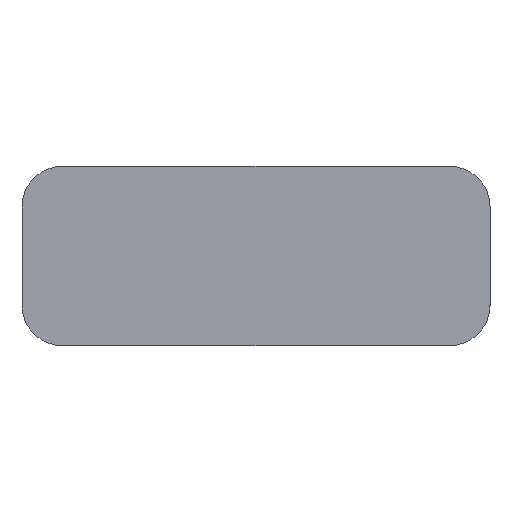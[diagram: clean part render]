
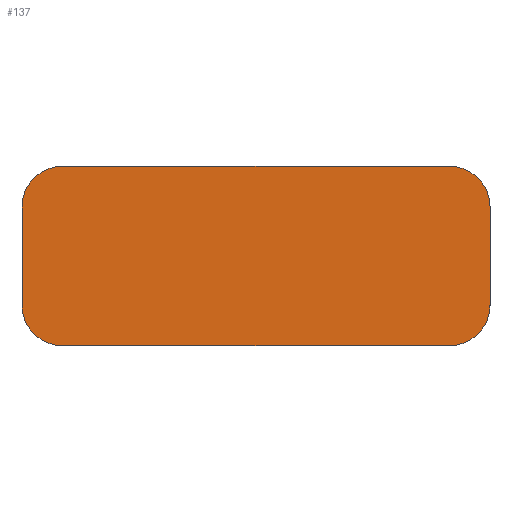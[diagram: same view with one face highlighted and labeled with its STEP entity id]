
A CAD part, top view. The second image highlights one B-rep face of the part: STEP entity #137.
In plain terms, the highlighted planar face has unit normal (0, 0, 1).
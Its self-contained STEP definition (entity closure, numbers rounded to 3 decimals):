
#21 = EDGE_CURVE('',#22,#24,#26,.T.);
#22 = VERTEX_POINT('',#23);
#23 = CARTESIAN_POINT('',(-17.2,-63.8,-9.5));
#24 = VERTEX_POINT('',#25);
#25 = CARTESIAN_POINT('',(-17.2,-56.6,-9.5));
#26 = SURFACE_CURVE('',#27,(#31,#43),.PCURVE_S1.);
#27 = LINE('',#28,#29);
#28 = CARTESIAN_POINT('',(-17.2,-66.8,-9.5));
#29 = VECTOR('',#30,1.);
#30 = DIRECTION('',(0.,1.,0.));
#31 = PCURVE('',#32,#37);
#32 = PLANE('',#33);
#33 = AXIS2_PLACEMENT_3D('',#34,#35,#36);
#34 = CARTESIAN_POINT('',(-17.2,-66.8,-11.5));
#35 = DIRECTION('',(1.,0.,0.));
#36 = DIRECTION('',(0.,0.,1.));
#37 = DEFINITIONAL_REPRESENTATION('',(#38),#42);
#38 = LINE('',#39,#40);
#39 = CARTESIAN_POINT('',(2.,0.));
#40 = VECTOR('',#41,1.);
#41 = DIRECTION('',(0.,-1.));
#42 = ( GEOMETRIC_REPRESENTATION_CONTEXT(2) 
PARAMETRIC_REPRESENTATION_CONTEXT() REPRESENTATION_CONTEXT('2D SPACE',''
  ) );
#43 = PCURVE('',#44,#49);
#44 = PLANE('',#45);
#45 = AXIS2_PLACEMENT_3D('',#46,#47,#48);
#46 = CARTESIAN_POINT('',(-17.2,-66.8,-9.5));
#47 = DIRECTION('',(0.,0.,1.));
#48 = DIRECTION('',(1.,0.,-0.));
#49 = DEFINITIONAL_REPRESENTATION('',(#50),#54);
#50 = LINE('',#51,#52);
#51 = CARTESIAN_POINT('',(0.,0.));
#52 = VECTOR('',#53,1.);
#53 = DIRECTION('',(0.,1.));
#54 = ( GEOMETRIC_REPRESENTATION_CONTEXT(2) 
PARAMETRIC_REPRESENTATION_CONTEXT() REPRESENTATION_CONTEXT('2D SPACE',''
  ) );
#72 = CYLINDRICAL_SURFACE('',#73,3.);
#73 = AXIS2_PLACEMENT_3D('',#74,#75,#76);
#74 = CARTESIAN_POINT('',(-14.2,-63.8,-11.5));
#75 = DIRECTION('',(0.,0.,1.));
#76 = DIRECTION('',(-1.,-0.,0.));
#126 = CYLINDRICAL_SURFACE('',#127,3.);
#127 = AXIS2_PLACEMENT_3D('',#128,#129,#130);
#128 = CARTESIAN_POINT('',(-14.2,-56.6,-11.5));
#129 = DIRECTION('',(0.,0.,1.));
#130 = DIRECTION('',(-1.,-0.,0.));
#137 = ADVANCED_FACE('',(#138),#44,.T.);
#138 = FACE_BOUND('',#139,.T.);
#139 = EDGE_LOOP('',(#140,#141,#165,#193,#226,#254,#283,#311));
#140 = ORIENTED_EDGE('',*,*,#21,.F.);
#141 = ORIENTED_EDGE('',*,*,#142,.T.);
#142 = EDGE_CURVE('',#22,#143,#145,.T.);
#143 = VERTEX_POINT('',#144);
#144 = CARTESIAN_POINT('',(-14.2,-66.8,-9.5));
#145 = SURFACE_CURVE('',#146,(#151,#158),.PCURVE_S1.);
#146 = CIRCLE('',#147,3.);
#147 = AXIS2_PLACEMENT_3D('',#148,#149,#150);
#148 = CARTESIAN_POINT('',(-14.2,-63.8,-9.5));
#149 = DIRECTION('',(0.,0.,1.));
#150 = DIRECTION('',(0.,-1.,0.));
#151 = PCURVE('',#44,#152);
#152 = DEFINITIONAL_REPRESENTATION('',(#153),#157);
#153 = CIRCLE('',#154,3.);
#154 = AXIS2_PLACEMENT_2D('',#155,#156);
#155 = CARTESIAN_POINT('',(3.,3.));
#156 = DIRECTION('',(0.,-1.));
#157 = ( GEOMETRIC_REPRESENTATION_CONTEXT(2) 
PARAMETRIC_REPRESENTATION_CONTEXT() REPRESENTATION_CONTEXT('2D SPACE',''
  ) );
#158 = PCURVE('',#72,#159);
#159 = DEFINITIONAL_REPRESENTATION('',(#160),#164);
#160 = LINE('',#161,#162);
#161 = CARTESIAN_POINT('',(-4.712,2.));
#162 = VECTOR('',#163,1.);
#163 = DIRECTION('',(1.,0.));
#164 = ( GEOMETRIC_REPRESENTATION_CONTEXT(2) 
PARAMETRIC_REPRESENTATION_CONTEXT() REPRESENTATION_CONTEXT('2D SPACE',''
  ) );
#165 = ORIENTED_EDGE('',*,*,#166,.T.);
#166 = EDGE_CURVE('',#143,#167,#169,.T.);
#167 = VERTEX_POINT('',#168);
#168 = CARTESIAN_POINT('',(14.2,-66.8,-9.5));
#169 = SURFACE_CURVE('',#170,(#174,#181),.PCURVE_S1.);
#170 = LINE('',#171,#172);
#171 = CARTESIAN_POINT('',(-17.2,-66.8,-9.5));
#172 = VECTOR('',#173,1.);
#173 = DIRECTION('',(1.,0.,0.));
#174 = PCURVE('',#44,#175);
#175 = DEFINITIONAL_REPRESENTATION('',(#176),#180);
#176 = LINE('',#177,#178);
#177 = CARTESIAN_POINT('',(0.,0.));
#178 = VECTOR('',#179,1.);
#179 = DIRECTION('',(1.,0.));
#180 = ( GEOMETRIC_REPRESENTATION_CONTEXT(2) 
PARAMETRIC_REPRESENTATION_CONTEXT() REPRESENTATION_CONTEXT('2D SPACE',''
  ) );
#181 = PCURVE('',#182,#187);
#182 = PLANE('',#183);
#183 = AXIS2_PLACEMENT_3D('',#184,#185,#186);
#184 = CARTESIAN_POINT('',(-17.2,-66.8,-11.5));
#185 = DIRECTION('',(0.,1.,0.));
#186 = DIRECTION('',(0.,-0.,1.));
#187 = DEFINITIONAL_REPRESENTATION('',(#188),#192);
#188 = LINE('',#189,#190);
#189 = CARTESIAN_POINT('',(2.,0.));
#190 = VECTOR('',#191,1.);
#191 = DIRECTION('',(0.,1.));
#192 = ( GEOMETRIC_REPRESENTATION_CONTEXT(2) 
PARAMETRIC_REPRESENTATION_CONTEXT() REPRESENTATION_CONTEXT('2D SPACE',''
  ) );
#193 = ORIENTED_EDGE('',*,*,#194,.F.);
#194 = EDGE_CURVE('',#195,#167,#197,.T.);
#195 = VERTEX_POINT('',#196);
#196 = CARTESIAN_POINT('',(17.2,-63.8,-9.5));
#197 = SURFACE_CURVE('',#198,(#203,#214),.PCURVE_S1.);
#198 = CIRCLE('',#199,3.);
#199 = AXIS2_PLACEMENT_3D('',#200,#201,#202);
#200 = CARTESIAN_POINT('',(14.2,-63.8,-9.5));
#201 = DIRECTION('',(-0.,-0.,-1.));
#202 = DIRECTION('',(0.,-1.,0.));
#203 = PCURVE('',#44,#204);
#204 = DEFINITIONAL_REPRESENTATION('',(#205),#213);
#205 = ( BOUNDED_CURVE() B_SPLINE_CURVE(2,(#206,#207,#208,#209,#210,#211
,#212),.UNSPECIFIED.,.T.,.F.) B_SPLINE_CURVE_WITH_KNOTS((1,2,2,2,2,1),(
    -2.094,0.,2.094,4.189,6.283,
8.378),.UNSPECIFIED.) CURVE() GEOMETRIC_REPRESENTATION_ITEM() 
RATIONAL_B_SPLINE_CURVE((1.,0.5,1.,0.5,1.,0.5,1.)) REPRESENTATION_ITEM(
  '') );
#206 = CARTESIAN_POINT('',(31.4,0.));
#207 = CARTESIAN_POINT('',(26.204,0.));
#208 = CARTESIAN_POINT('',(28.802,4.5));
#209 = CARTESIAN_POINT('',(31.4,9.));
#210 = CARTESIAN_POINT('',(33.998,4.5));
#211 = CARTESIAN_POINT('',(36.596,0.));
#212 = CARTESIAN_POINT('',(31.4,0.));
#213 = ( GEOMETRIC_REPRESENTATION_CONTEXT(2) 
PARAMETRIC_REPRESENTATION_CONTEXT() REPRESENTATION_CONTEXT('2D SPACE',''
  ) );
#214 = PCURVE('',#215,#220);
#215 = CYLINDRICAL_SURFACE('',#216,3.);
#216 = AXIS2_PLACEMENT_3D('',#217,#218,#219);
#217 = CARTESIAN_POINT('',(14.2,-63.8,-11.5));
#218 = DIRECTION('',(0.,0.,1.));
#219 = DIRECTION('',(1.,0.,-0.));
#220 = DEFINITIONAL_REPRESENTATION('',(#221),#225);
#221 = LINE('',#222,#223);
#222 = CARTESIAN_POINT('',(10.996,2.));
#223 = VECTOR('',#224,1.);
#224 = DIRECTION('',(-1.,0.));
#225 = ( GEOMETRIC_REPRESENTATION_CONTEXT(2) 
PARAMETRIC_REPRESENTATION_CONTEXT() REPRESENTATION_CONTEXT('2D SPACE',''
  ) );
#226 = ORIENTED_EDGE('',*,*,#227,.T.);
#227 = EDGE_CURVE('',#195,#228,#230,.T.);
#228 = VERTEX_POINT('',#229);
#229 = CARTESIAN_POINT('',(17.2,-56.6,-9.5));
#230 = SURFACE_CURVE('',#231,(#235,#242),.PCURVE_S1.);
#231 = LINE('',#232,#233);
#232 = CARTESIAN_POINT('',(17.2,-66.8,-9.5));
#233 = VECTOR('',#234,1.);
#234 = DIRECTION('',(0.,1.,0.));
#235 = PCURVE('',#44,#236);
#236 = DEFINITIONAL_REPRESENTATION('',(#237),#241);
#237 = LINE('',#238,#239);
#238 = CARTESIAN_POINT('',(34.4,0.));
#239 = VECTOR('',#240,1.);
#240 = DIRECTION('',(0.,1.));
#241 = ( GEOMETRIC_REPRESENTATION_CONTEXT(2) 
PARAMETRIC_REPRESENTATION_CONTEXT() REPRESENTATION_CONTEXT('2D SPACE',''
  ) );
#242 = PCURVE('',#243,#248);
#243 = PLANE('',#244);
#244 = AXIS2_PLACEMENT_3D('',#245,#246,#247);
#245 = CARTESIAN_POINT('',(17.2,-66.8,-11.5));
#246 = DIRECTION('',(1.,0.,0.));
#247 = DIRECTION('',(0.,0.,1.));
#248 = DEFINITIONAL_REPRESENTATION('',(#249),#253);
#249 = LINE('',#250,#251);
#250 = CARTESIAN_POINT('',(2.,0.));
#251 = VECTOR('',#252,1.);
#252 = DIRECTION('',(0.,-1.));
#253 = ( GEOMETRIC_REPRESENTATION_CONTEXT(2) 
PARAMETRIC_REPRESENTATION_CONTEXT() REPRESENTATION_CONTEXT('2D SPACE',''
  ) );
#254 = ORIENTED_EDGE('',*,*,#255,.T.);
#255 = EDGE_CURVE('',#228,#256,#258,.T.);
#256 = VERTEX_POINT('',#257);
#257 = CARTESIAN_POINT('',(14.2,-53.6,-9.5));
#258 = SURFACE_CURVE('',#259,(#264,#271),.PCURVE_S1.);
#259 = CIRCLE('',#260,3.);
#260 = AXIS2_PLACEMENT_3D('',#261,#262,#263);
#261 = CARTESIAN_POINT('',(14.2,-56.6,-9.5));
#262 = DIRECTION('',(0.,0.,1.));
#263 = DIRECTION('',(0.,-1.,0.));
#264 = PCURVE('',#44,#265);
#265 = DEFINITIONAL_REPRESENTATION('',(#266),#270);
#266 = CIRCLE('',#267,3.);
#267 = AXIS2_PLACEMENT_2D('',#268,#269);
#268 = CARTESIAN_POINT('',(31.4,10.2));
#269 = DIRECTION('',(0.,-1.));
#270 = ( GEOMETRIC_REPRESENTATION_CONTEXT(2) 
PARAMETRIC_REPRESENTATION_CONTEXT() REPRESENTATION_CONTEXT('2D SPACE',''
  ) );
#271 = PCURVE('',#272,#277);
#272 = CYLINDRICAL_SURFACE('',#273,3.);
#273 = AXIS2_PLACEMENT_3D('',#274,#275,#276);
#274 = CARTESIAN_POINT('',(14.2,-56.6,-11.5));
#275 = DIRECTION('',(0.,0.,1.));
#276 = DIRECTION('',(1.,0.,-0.));
#277 = DEFINITIONAL_REPRESENTATION('',(#278),#282);
#278 = LINE('',#279,#280);
#279 = CARTESIAN_POINT('',(-1.571,2.));
#280 = VECTOR('',#281,1.);
#281 = DIRECTION('',(1.,0.));
#282 = ( GEOMETRIC_REPRESENTATION_CONTEXT(2) 
PARAMETRIC_REPRESENTATION_CONTEXT() REPRESENTATION_CONTEXT('2D SPACE',''
  ) );
#283 = ORIENTED_EDGE('',*,*,#284,.F.);
#284 = EDGE_CURVE('',#285,#256,#287,.T.);
#285 = VERTEX_POINT('',#286);
#286 = CARTESIAN_POINT('',(-14.2,-53.6,-9.5));
#287 = SURFACE_CURVE('',#288,(#292,#299),.PCURVE_S1.);
#288 = LINE('',#289,#290);
#289 = CARTESIAN_POINT('',(-17.2,-53.6,-9.5));
#290 = VECTOR('',#291,1.);
#291 = DIRECTION('',(1.,0.,0.));
#292 = PCURVE('',#44,#293);
#293 = DEFINITIONAL_REPRESENTATION('',(#294),#298);
#294 = LINE('',#295,#296);
#295 = CARTESIAN_POINT('',(0.,13.2));
#296 = VECTOR('',#297,1.);
#297 = DIRECTION('',(1.,0.));
#298 = ( GEOMETRIC_REPRESENTATION_CONTEXT(2) 
PARAMETRIC_REPRESENTATION_CONTEXT() REPRESENTATION_CONTEXT('2D SPACE',''
  ) );
#299 = PCURVE('',#300,#305);
#300 = PLANE('',#301);
#301 = AXIS2_PLACEMENT_3D('',#302,#303,#304);
#302 = CARTESIAN_POINT('',(-17.2,-53.6,-11.5));
#303 = DIRECTION('',(0.,1.,0.));
#304 = DIRECTION('',(0.,-0.,1.));
#305 = DEFINITIONAL_REPRESENTATION('',(#306),#310);
#306 = LINE('',#307,#308);
#307 = CARTESIAN_POINT('',(2.,0.));
#308 = VECTOR('',#309,1.);
#309 = DIRECTION('',(0.,1.));
#310 = ( GEOMETRIC_REPRESENTATION_CONTEXT(2) 
PARAMETRIC_REPRESENTATION_CONTEXT() REPRESENTATION_CONTEXT('2D SPACE',''
  ) );
#311 = ORIENTED_EDGE('',*,*,#312,.F.);
#312 = EDGE_CURVE('',#24,#285,#313,.T.);
#313 = SURFACE_CURVE('',#314,(#319,#330),.PCURVE_S1.);
#314 = CIRCLE('',#315,3.);
#315 = AXIS2_PLACEMENT_3D('',#316,#317,#318);
#316 = CARTESIAN_POINT('',(-14.2,-56.6,-9.5));
#317 = DIRECTION('',(-0.,-0.,-1.));
#318 = DIRECTION('',(0.,-1.,0.));
#319 = PCURVE('',#44,#320);
#320 = DEFINITIONAL_REPRESENTATION('',(#321),#329);
#321 = ( BOUNDED_CURVE() B_SPLINE_CURVE(2,(#322,#323,#324,#325,#326,#327
,#328),.UNSPECIFIED.,.T.,.F.) B_SPLINE_CURVE_WITH_KNOTS((1,2,2,2,2,1),(
    -2.094,0.,2.094,4.189,6.283,
8.378),.UNSPECIFIED.) CURVE() GEOMETRIC_REPRESENTATION_ITEM() 
RATIONAL_B_SPLINE_CURVE((1.,0.5,1.,0.5,1.,0.5,1.)) REPRESENTATION_ITEM(
  '') );
#322 = CARTESIAN_POINT('',(3.,7.2));
#323 = CARTESIAN_POINT('',(-2.196,7.2));
#324 = CARTESIAN_POINT('',(0.402,11.7));
#325 = CARTESIAN_POINT('',(3.,16.2));
#326 = CARTESIAN_POINT('',(5.598,11.7));
#327 = CARTESIAN_POINT('',(8.196,7.2));
#328 = CARTESIAN_POINT('',(3.,7.2));
#329 = ( GEOMETRIC_REPRESENTATION_CONTEXT(2) 
PARAMETRIC_REPRESENTATION_CONTEXT() REPRESENTATION_CONTEXT('2D SPACE',''
  ) );
#330 = PCURVE('',#126,#331);
#331 = DEFINITIONAL_REPRESENTATION('',(#332),#336);
#332 = LINE('',#333,#334);
#333 = CARTESIAN_POINT('',(7.854,2.));
#334 = VECTOR('',#335,1.);
#335 = DIRECTION('',(-1.,0.));
#336 = ( GEOMETRIC_REPRESENTATION_CONTEXT(2) 
PARAMETRIC_REPRESENTATION_CONTEXT() REPRESENTATION_CONTEXT('2D SPACE',''
  ) );
